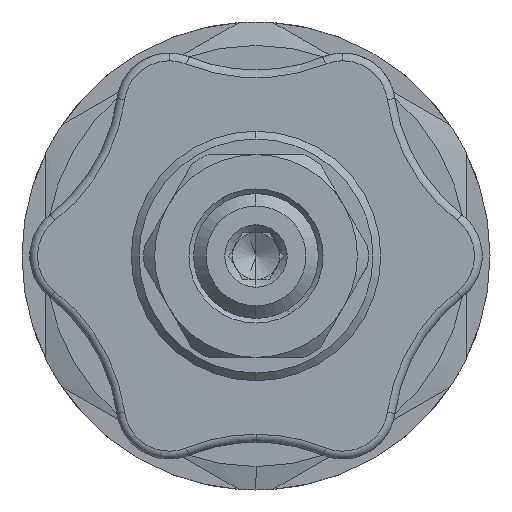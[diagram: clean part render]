
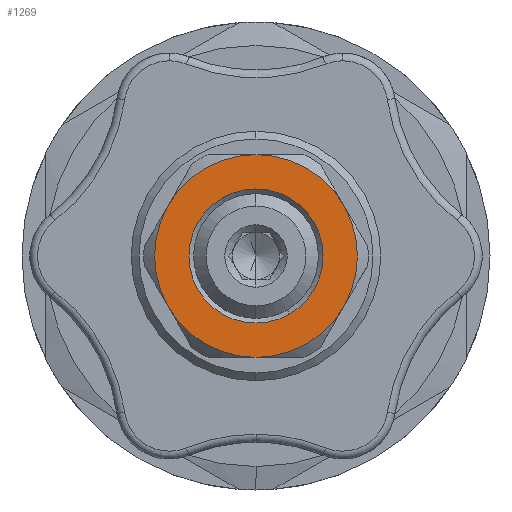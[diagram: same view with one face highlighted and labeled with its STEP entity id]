
A CAD part, left-side view. The second image highlights one B-rep face of the part: STEP entity #1269.
In plain terms, the highlighted planar face has unit normal (-1, 0, 0).
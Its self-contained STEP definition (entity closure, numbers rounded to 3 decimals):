
#1040 = VERTEX_POINT ( 'NONE', #8530 ) ;
#1041 = VERTEX_POINT ( 'NONE', #8531 ) ;
#1269 = ADVANCED_FACE ( 'NONE', ( #8794, #8796 ), #8716, .F. ) ;
#1298 = EDGE_CURVE ( 'NONE', #1041, #1040, #2983, .T. ) ;
#1352 = EDGE_CURVE ( 'NONE', #1941, #1940, #3006, .T. ) ;
#1355 = EDGE_CURVE ( 'NONE', #1940, #1942, #3007, .T. ) ;
#1358 = EDGE_CURVE ( 'NONE', #1942, #1943, #3008, .T. ) ;
#1361 = EDGE_CURVE ( 'NONE', #1943, #1944, #3009, .T. ) ;
#1364 = EDGE_CURVE ( 'NONE', #1944, #1945, #3010, .T. ) ;
#1367 = EDGE_CURVE ( 'NONE', #1945, #1941, #3011, .T. ) ;
#1370 = EDGE_CURVE ( 'NONE', #1040, #1041, #3013, .T. ) ;
#1710 = EDGE_LOOP ( 'NONE', ( #1872, #1873 ) ) ;
#1711 = EDGE_LOOP ( 'NONE', ( #1875, #1874, #1876, #1871, #1877, #1878 ) ) ;
#1871 = ORIENTED_EDGE ( 'NONE', *, *, #1355, .T. ) ;
#1872 = ORIENTED_EDGE ( 'NONE', *, *, #1298, .T. ) ;
#1873 = ORIENTED_EDGE ( 'NONE', *, *, #1370, .T. ) ;
#1874 = ORIENTED_EDGE ( 'NONE', *, *, #1367, .T. ) ;
#1875 = ORIENTED_EDGE ( 'NONE', *, *, #1364, .T. ) ;
#1876 = ORIENTED_EDGE ( 'NONE', *, *, #1352, .T. ) ;
#1877 = ORIENTED_EDGE ( 'NONE', *, *, #1358, .T. ) ;
#1878 = ORIENTED_EDGE ( 'NONE', *, *, #1361, .T. ) ;
#1940 = VERTEX_POINT ( 'NONE', #12405 ) ;
#1941 = VERTEX_POINT ( 'NONE', #12406 ) ;
#1942 = VERTEX_POINT ( 'NONE', #12407 ) ;
#1943 = VERTEX_POINT ( 'NONE', #12408 ) ;
#1944 = VERTEX_POINT ( 'NONE', #12409 ) ;
#1945 = VERTEX_POINT ( 'NONE', #12410 ) ;
#2983 = CIRCLE ( 'NONE', #8983, 4.3 ) ;
#3006 = CIRCLE ( 'NONE', #9194, 6.5 ) ;
#3007 = CIRCLE ( 'NONE', #9195, 6.5 ) ;
#3008 = CIRCLE ( 'NONE', #9196, 6.5 ) ;
#3009 = CIRCLE ( 'NONE', #9185, 6.5 ) ;
#3010 = CIRCLE ( 'NONE', #9199, 6.5 ) ;
#3011 = CIRCLE ( 'NONE', #9198, 6.5 ) ;
#3013 = CIRCLE ( 'NONE', #9197, 4.3 ) ;
#8530 = CARTESIAN_POINT ( 'NONE',  ( -3.5, -2.15, -3.724 ) ) ;
#8531 = CARTESIAN_POINT ( 'NONE',  ( -3.5, 2.15, 3.724 ) ) ;
#8716 = PLANE ( 'NONE',  #8802 ) ;
#8717 = CARTESIAN_POINT ( 'NONE',  ( -3.5, 0., 0. ) ) ;
#8718 = DIRECTION ( 'NONE',  ( 1., 0., 0. ) ) ;
#8719 = DIRECTION ( 'NONE',  ( 0., -0.5, -0.866 ) ) ;
#8794 = FACE_BOUND ( 'NONE', #1710, .T. ) ;
#8796 = FACE_OUTER_BOUND ( 'NONE', #1711, .T. ) ;
#8802 = AXIS2_PLACEMENT_3D ( 'NONE', #8717, #8718, #8719 ) ;
#8894 = CARTESIAN_POINT ( 'NONE',  ( -3.5, 0., 0. ) ) ;
#8895 = DIRECTION ( 'NONE',  ( 1., 0., 0. ) ) ;
#8896 = DIRECTION ( 'NONE',  ( 0., -0.5, -0.866 ) ) ;
#8983 = AXIS2_PLACEMENT_3D ( 'NONE', #8894, #8895, #8896 ) ;
#9175 = CARTESIAN_POINT ( 'NONE',  ( -3.5, 0., 0. ) ) ;
#9176 = DIRECTION ( 'NONE',  ( -1., 0., 0. ) ) ;
#9177 = DIRECTION ( 'NONE',  ( 0., -0.866, 0.5 ) ) ;
#9185 = AXIS2_PLACEMENT_3D ( 'NONE', #9256, #9257, #9258 ) ;
#9194 = AXIS2_PLACEMENT_3D ( 'NONE', #9175, #9176, #9177 ) ;
#9195 = AXIS2_PLACEMENT_3D ( 'NONE', #9222, #9223, #9224 ) ;
#9196 = AXIS2_PLACEMENT_3D ( 'NONE', #9239, #9240, #9241 ) ;
#9197 = AXIS2_PLACEMENT_3D ( 'NONE', #9306, #9307, #9308 ) ;
#9198 = AXIS2_PLACEMENT_3D ( 'NONE', #9292, #9293, #9294 ) ;
#9199 = AXIS2_PLACEMENT_3D ( 'NONE', #9275, #9276, #9277 ) ;
#9222 = CARTESIAN_POINT ( 'NONE',  ( -3.5, 0., 0. ) ) ;
#9223 = DIRECTION ( 'NONE',  ( -1., 0., 0. ) ) ;
#9224 = DIRECTION ( 'NONE',  ( 0., -0.866, 0.5 ) ) ;
#9239 = CARTESIAN_POINT ( 'NONE',  ( -3.5, 0., 0. ) ) ;
#9240 = DIRECTION ( 'NONE',  ( -1., 0., 0. ) ) ;
#9241 = DIRECTION ( 'NONE',  ( 0., -0.866, 0.5 ) ) ;
#9256 = CARTESIAN_POINT ( 'NONE',  ( -3.5, 0., 0. ) ) ;
#9257 = DIRECTION ( 'NONE',  ( -1., 0., 0. ) ) ;
#9258 = DIRECTION ( 'NONE',  ( 0., -0.866, 0.5 ) ) ;
#9275 = CARTESIAN_POINT ( 'NONE',  ( -3.5, 0., 0. ) ) ;
#9276 = DIRECTION ( 'NONE',  ( -1., 0., 0. ) ) ;
#9277 = DIRECTION ( 'NONE',  ( 0., -0.866, 0.5 ) ) ;
#9292 = CARTESIAN_POINT ( 'NONE',  ( -3.5, 0., 0. ) ) ;
#9293 = DIRECTION ( 'NONE',  ( -1., 0., 0. ) ) ;
#9294 = DIRECTION ( 'NONE',  ( 0., -0.866, 0.5 ) ) ;
#9306 = CARTESIAN_POINT ( 'NONE',  ( -3.5, 0., 0. ) ) ;
#9307 = DIRECTION ( 'NONE',  ( 1., 0., 0. ) ) ;
#9308 = DIRECTION ( 'NONE',  ( 0., -0.5, -0.866 ) ) ;
#12405 = CARTESIAN_POINT ( 'NONE',  ( -3.5, 5.629, -3.25 ) ) ;
#12406 = CARTESIAN_POINT ( 'NONE',  ( -3.5, 5.629, 3.25 ) ) ;
#12407 = CARTESIAN_POINT ( 'NONE',  ( -3.5, 0., -6.5 ) ) ;
#12408 = CARTESIAN_POINT ( 'NONE',  ( -3.5, -5.629, -3.25 ) ) ;
#12409 = CARTESIAN_POINT ( 'NONE',  ( -3.5, -5.629, 3.25 ) ) ;
#12410 = CARTESIAN_POINT ( 'NONE',  ( -3.5, 0., 6.5 ) ) ;
